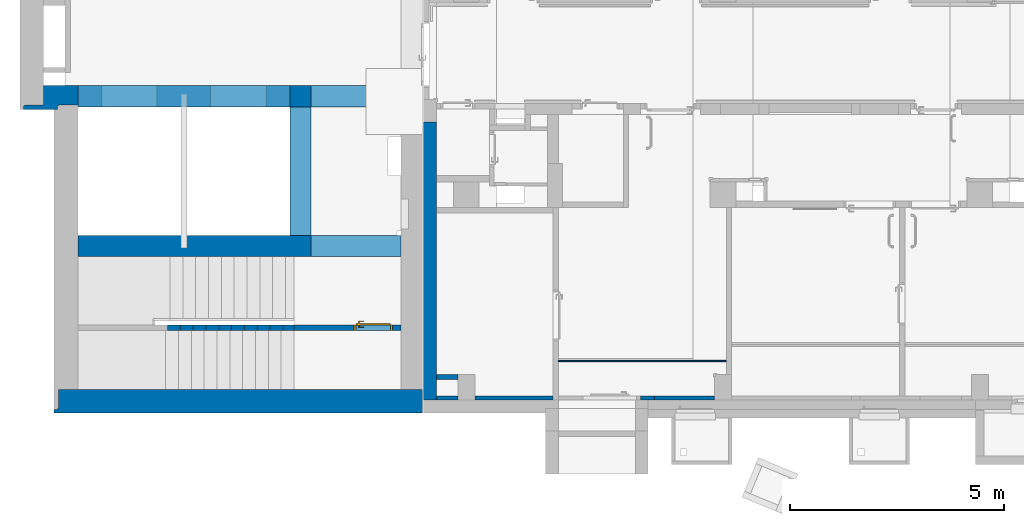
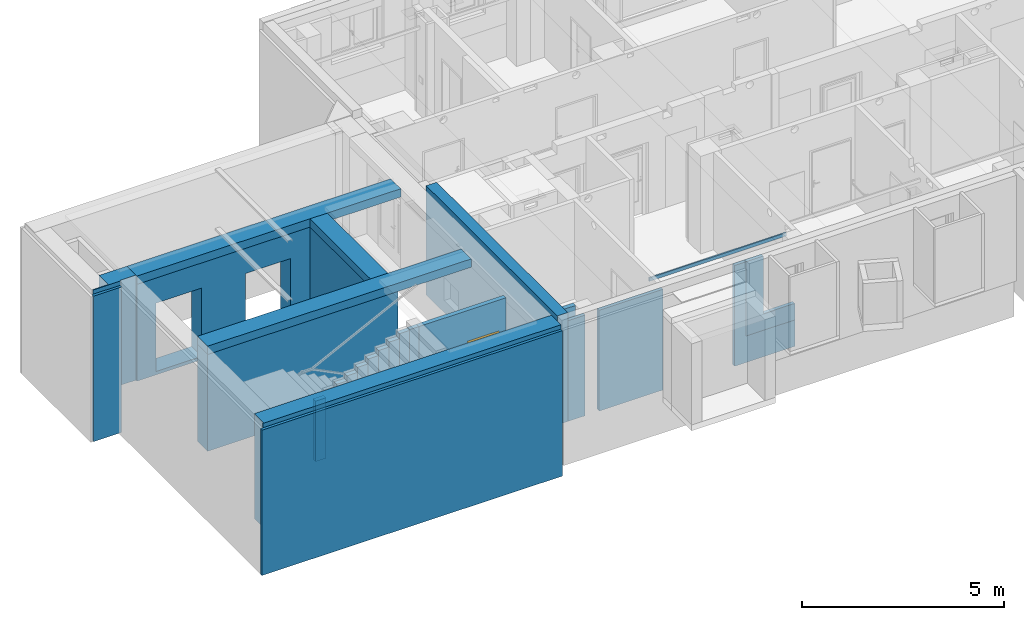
# One storey, part 9 of 84: 26 walls, 1 door, 5 openings.
"""IFC4 building model written with IfcOpenShell, lengths in metres."""

from ifc_helpers import new_model, entity, si_unit, converted_unit, derived_unit, frame, frame_2d, origin, origin_with_axes, place, context, subcontext, project, spatial, polyline, rectangle, outline, extrude, clip, bounded_halfspace, closed_shell, open_shell, surface_model, source, transform, mapped, material, layer, layer_set, layer_usage, type_object, element, fill, save


model = new_model("IFC4")

# Units and contexts
model_context = context("Model", 3, precision=1e-05, world=origin())
body_context = subcontext(model_context, "Body", "Model", "MODEL_VIEW")
ifc_project = project(units=[si_unit("LENGTHUNIT", "METRE"), si_unit("AREAUNIT", "SQUARE_METRE"), si_unit("VOLUMEUNIT", "CUBIC_METRE"), si_unit("MASSUNIT", "GRAM", prefix="KILO"), converted_unit("PLANEANGLEUNIT", "DEGREE", entity("IfcPlaneAngleMeasure", 0.0174532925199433), si_unit("PLANEANGLEUNIT", "RADIAN"), dimensions=[0, 0, 0, 0, 0, 0, 0]), derived_unit("THERMALTRANSMITTANCEUNIT", [(si_unit("POWERUNIT", "WATT"), 1), (si_unit("THERMODYNAMICTEMPERATUREUNIT", "KELVIN"), -1), (si_unit("LENGTHUNIT", "METRE"), -2)]), derived_unit("VOLUMETRICFLOWRATEUNIT", [(si_unit("LENGTHUNIT", "METRE"), 3), (converted_unit("TIMEUNIT", "hour", entity("IfcTimeMeasure", 3600.0), si_unit("TIMEUNIT", "SECOND"), dimensions=[0, 0, 1, 0, 0, 0, 0]), -1), (si_unit("LENGTHUNIT", "METRE"), -1)])], contexts=[model_context])

# Site, building, storey
site_placement = place(None, origin())
site = spatial("IfcSite", under=ifc_project, at=site_placement, Name="3. ASŘ", CompositionType="ELEMENT")
building_placement = place(site_placement, origin())
building = spatial("IfcBuilding", under=site, at=building_placement, Name="Pavilon C", CompositionType="ELEMENT")
storey_placement = place(building_placement, frame((0.0, 0.0, -3.3)))
storey = spatial("IfcBuildingStorey", under=building, at=storey_placement, Name="Půdorys 1.PP", CompositionType="ELEMENT", Elevation=-3.3)

# Walls
ifc_material_1 = material(Name="ZDIVO Z CDm")
ifc_layer_1 = layer(ifc_material_1, 0.5)
ifc_layer_set_1 = layer_set([ifc_layer_1])
ifc_layer_usage_1 = layer_usage(ifc_layer_set_1, "AXIS2", "POSITIVE", 0.0)
wall_1_placement = place(storey_placement, frame((-9.07499999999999, 3.95, -0.1)))
element("IfcWall", 1, at=wall_1_placement, inside=storey, material=ifc_layer_usage_1, Name="ZDIVO Z CDm", context=body_context, shape_type="SweptSolid", body=[
    extrude(rectangle(XDim=5.45, YDim=0.5, at=frame_2d((2.725, 0.25), x_axis=(1.0, 0.0))), origin_with_axes(), (0.0, 0.0, 1.0), 2.93),
])
ifc_material_2 = material(Name="ZDIVO Z CDm")
ifc_layer_2 = layer(ifc_material_2, 0.5)
ifc_layer_set_2 = layer_set([ifc_layer_2])
ifc_layer_usage_2 = layer_usage(ifc_layer_set_2, "AXIS2", "POSITIVE", 0.0)
wall_2_placement = place(storey_placement, frame((-3.62499999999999, 4.45, -0.1), z_axis=(0.0, 0.0, 1.0), x_axis=(0.0, 1.0, 0.0)))
element("IfcWall", 2, at=wall_2_placement, inside=storey, material=ifc_layer_usage_2, Name="ZDIVO Z CDm", context=body_context, shape_type="SweptSolid", body=[
    extrude(rectangle(XDim=3.5, YDim=0.5, at=frame_2d((1.75, 0.25), x_axis=(1.0, 0.0))), origin_with_axes(), (0.0, 0.0, 1.0), 2.93),
])

# Wall, openings
ifc_material_3 = material(Name="ZDIVO Z CDm")
ifc_layer_3 = layer(ifc_material_3, 0.5)
ifc_layer_set_3 = layer_set([ifc_layer_3])
ifc_layer_usage_3 = layer_usage(ifc_layer_set_3, "AXIS2", "POSITIVE", 0.0)
wall_3_placement = place(storey_placement, frame((-4.12499999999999, 7.95, -0.1), z_axis=(0.0, 0.0, 1.0), x_axis=(-1.0, 0.0, 0.0)))
wall_3 = element("IfcWall", 3, at=wall_3_placement, inside=storey, material=ifc_layer_usage_3, Name="ZDIVO Z CDm", context=body_context, shape_type="SweptSolid", body=[
    extrude(rectangle(XDim=4.94999999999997, YDim=0.5, at=frame_2d((2.47499999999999, 0.25), x_axis=(1.0, 0.0))), origin_with_axes(), (0.0, 0.0, 1.0), 2.93),
])
opening_1_placement = place(wall_3_placement, frame((3.1, 0.0, 0.1), z_axis=(0.0, 1.0, 0.0), x_axis=(0.0, 0.0, 1.0)))
element("IfcOpeningElement", 4, at=opening_1_placement, cuts=wall_3, Name="Dveřní otvor", ObjectType="Opening", context=body_context, shape_type="SweptSolid", body=[
    extrude(outline(polyline([(0.0, 1.3), (2.07, 1.3), (2.07, 0.0), (0.0, 0.0), (0.0, 1.3)])), origin_with_axes(), (0.0, 0.0, 1.0), 0.5),
])
opening_2_placement = place(wall_3_placement, frame((0.55, 0.0, 0.1), z_axis=(0.0, 1.0, 0.0), x_axis=(0.0, 0.0, 1.0)))
element("IfcOpeningElement", 5, at=opening_2_placement, cuts=wall_3, Name="Dveřní otvor", ObjectType="Opening", context=body_context, shape_type="SweptSolid", body=[
    extrude(outline(polyline([(0.0, 1.3), (2.07, 1.3), (2.07, 0.0), (0.0, 0.0), (0.0, 1.3)])), origin_with_axes(), (0.0, 0.0, 1.0), 0.5),
])

# Walls
ifc_material_4 = material(Name="ZELEZOBETONOVÁ KCE")
ifc_layer_4 = layer(ifc_material_4, 0.3)
ifc_layer_set_4 = layer_set([ifc_layer_4])
ifc_layer_usage_4 = layer_usage(ifc_layer_set_4, "AXIS2", "POSITIVE", 0.0)
wall_4_placement = place(storey_placement, frame((-0.699999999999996, 0.600000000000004, -0.1), z_axis=(0.0, 0.0, 1.0), x_axis=(0.0, 1.0, 0.0)))
element("IfcWall", 6, at=wall_4_placement, inside=storey, material=ifc_layer_usage_4, Name="ZELEZOBETONOVÁ KCE", context=body_context, shape_type="SweptSolid", body=[
    extrude(rectangle(XDim=6.5, YDim=0.3, at=frame_2d((3.25, 0.15), x_axis=(1.0, 0.0))), origin_with_axes(), (0.0, 0.0, 1.0), 3.3),
])
ifc_material_5 = material(Name="ZELEZOBETONOVÁ KCE")
ifc_layer_5 = layer(ifc_material_5, 0.45)
ifc_material_6 = material(Name="LIGNOPOR")
ifc_layer_6 = layer(ifc_material_6, 0.025)
ifc_material_7 = material(Name="PÓROBETONOVÉ ZDIVO")
ifc_layer_7 = layer(ifc_material_7, 0.08)
ifc_layer_set_5 = layer_set([ifc_layer_5, ifc_layer_6, ifc_layer_7])
ifc_layer_usage_5 = layer_usage(ifc_layer_set_5, "AXIS2", "POSITIVE", 0.0)
wall_5_placement = place(storey_placement, frame((-9.07499999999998, 7.95, -1.45), z_axis=(0.0, 0.0, 1.0), x_axis=(-1.0, 0.0, 0.0)))
element("IfcWall", 7, at=wall_5_placement, inside=storey, material=ifc_layer_usage_5, Name="ZELEZOBETONOVÁ KCE", context=body_context, shape_type="Clipping", body=[
    clip(clip(clip(extrude(outline(polyline([(-1.275, -0.555), (-0.475, -0.555), (-0.475, -0.105), (-0.025, -0.105), (-0.025, -0.08), (0.0, -0.08), (0.0, 0.0), (-0.800000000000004, 0.0), (-0.800000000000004, -0.08), (-0.825000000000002, -0.08), (-0.825000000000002, -0.105), (-1.275, -0.105), (-1.275, -0.555)])), frame((1.275, 0.555, 0.0), z_axis=(0.0, 0.0, 1.0), x_axis=(1.0, 0.0, 0.0)), (0.0, 0.0, 1.0), 4.53), bounded_halfspace(frame((0.4, 0.225, 1.35), z_axis=(0.0, 0.0, 1.0), x_axis=(0.0, -1.0, 0.0)), True, origin_with_axes(), polyline([(0.0, 0.45), (0.0, 0.0), (0.8, 0.0), (0.8, 0.45), (0.0, 0.45)]))), bounded_halfspace(frame((0.779166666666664, 0.4625, 1.45), z_axis=(0.0, 0.0, 1.0), x_axis=(-1.0, 0.0, 0.0)), True, origin_with_axes(), polyline([(0.474999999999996, 0.475), (0.449999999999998, 0.475), (0.449999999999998, 0.45), (0.8, 0.45), (1.25, 0.45), (1.25, 0.475), (0.474999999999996, 0.475)]))), bounded_halfspace(frame((0.949999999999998, 0.507, 4.4), z_axis=(0.0, 0.0, -1.0), x_axis=(1.0, 0.0, 0.0)), True, origin_with_axes(), polyline([(1.25, 0.475), (1.275, 0.475), (1.275, 0.555), (0.474999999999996, 0.555), (0.474999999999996, 0.475), (1.25, 0.475)]))),
])
ifc_material_8 = material(Name="ZELEZOBETONOVÁ KCE")
ifc_layer_8 = layer(ifc_material_8, 0.45)
ifc_material_9 = material(Name="LIGNOPOR")
ifc_layer_9 = layer(ifc_material_9, 0.025)
ifc_material_10 = material(Name="PÓROBETONOVÉ ZDIVO")
ifc_layer_10 = layer(ifc_material_10, 0.08)
ifc_layer_set_6 = layer_set([ifc_layer_8, ifc_layer_9, ifc_layer_10])
ifc_layer_usage_6 = layer_usage(ifc_layer_set_6, "AXIS2", "POSITIVE", 0.0)
wall_6_placement = place(storey_placement, frame((-1.025, 0.850000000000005, -1.45), z_axis=(0.0, 0.0, 1.0), x_axis=(-1.0, 0.0, 0.0)))
element("IfcWall", 8, at=wall_6_placement, inside=storey, material=ifc_layer_usage_6, Name="ZELEZOBETONOVÁ KCE", context=body_context, shape_type="Clipping", body=[
    clip(clip(clip(extrude(outline(polyline([(-8.60499999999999, -0.555), (-0.105, -0.555), (-0.105, -0.105), (-0.0800000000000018, -0.105), (-0.0800000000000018, -0.08), (0.0, -0.08), (0.0, 0.0), (-8.60499999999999, 0.0), (-8.60499999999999, -0.555)])), frame((8.60499999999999, 0.555, 0.0), z_axis=(0.0, 0.0, 1.0), x_axis=(1.0, 0.0, 0.0)), (0.0, 0.0, 1.0), 4.53), bounded_halfspace(frame((4.25, 0.225, 1.35), z_axis=(0.0, 0.0, 1.0), x_axis=(-2.02109933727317e-15, -1.0, 0.0)), True, origin_with_axes(), polyline([(9.09494701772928e-16, 0.45), (0.0, 0.0), (8.49999999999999, 0.0), (8.49999999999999, 0.45), (9.09494701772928e-16, 0.45)]))), bounded_halfspace(frame((5.11, 0.46, 1.45), z_axis=(0.0, 0.0, 1.0), x_axis=(0.0, -1.0, 0.0)), True, origin_with_axes(), polyline([(9.09494701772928e-16, 0.475), (9.09494701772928e-16, 0.45), (8.49999999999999, 0.45), (8.52499999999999, 0.45), (8.52499999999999, 0.475), (9.09494701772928e-16, 0.475)]))), bounded_halfspace(frame((5.14699999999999, 0.507, 4.4), z_axis=(0.0, 0.0, -1.0), x_axis=(1.0, 0.0, 0.0)), True, origin_with_axes(), polyline([(8.52499999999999, 0.475), (8.60499999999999, 0.475), (8.60499999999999, 0.555), (9.09494701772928e-16, 0.555), (9.09494701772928e-16, 0.475), (8.52499999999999, 0.475)]))),
])
ifc_material_11 = material(Name="ZDIVO Z CDm")
ifc_layer_11 = layer(ifc_material_11, 0.125)
ifc_layer_set_7 = layer_set([ifc_layer_11])
ifc_layer_usage_7 = layer_usage(ifc_layer_set_7, "AXIS2", "POSITIVE", 0.0)
wall_7_placement = place(storey_placement, frame((-0.199999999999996, 1.2, -0.1), z_axis=(0.0, 0.0, 1.0), x_axis=(-1.0, 0.0, 0.0)))
element("IfcWall", 9, at=wall_7_placement, inside=storey, material=ifc_layer_usage_7, Name="ZDIVO Z CDm", context=body_context, shape_type="SweptSolid", body=[
    extrude(rectangle(XDim=0.500000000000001, YDim=0.125, at=frame_2d((0.25, 0.0625), x_axis=(1.0, 0.0))), origin_with_axes(), (0.0, 0.0, 1.0), 3.05),
])
ifc_material_12 = material(Name="PÓROBETONOVÉ ZDIVO")
ifc_layer_12 = layer(ifc_material_12, 0.1)
ifc_layer_set_8 = layer_set([ifc_layer_12])
ifc_layer_usage_8 = layer_usage(ifc_layer_set_8, "AXIS2", "POSITIVE", 0.0)
wall_8_placement = place(storey_placement, frame((-0.699999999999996, 0.600000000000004, -0.1)))
element("IfcWall", 10, at=wall_8_placement, inside=storey, material=ifc_layer_usage_8, Name="PÓROBETONOVÉ ZDIVO", context=body_context, shape_type="SweptSolid", body=[
    extrude(rectangle(XDim=0.500000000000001, YDim=0.1, at=frame_2d((0.25, 0.05), x_axis=(1.0, 0.0))), origin_with_axes(), (0.0, 0.0, 1.0), 3.05),
])
ifc_material_13 = material(Name="PÓROBETONOVÉ ZDIVO")
ifc_layer_13 = layer(ifc_material_13, 0.1)
ifc_layer_set_9 = layer_set([ifc_layer_13])
ifc_layer_usage_9 = layer_usage(ifc_layer_set_9, "AXIS2", "POSITIVE", 0.0)
wall_9_placement = place(storey_placement, frame((0.200000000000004, 0.600000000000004, -0.1)))
element("IfcWall", 11, at=wall_9_placement, inside=storey, material=ifc_layer_usage_9, Name="PÓROBETONOVÉ ZDIVO", context=body_context, shape_type="SweptSolid", body=[
    extrude(rectangle(XDim=1.825, YDim=0.1, at=frame_2d((0.9125, 0.05), x_axis=(1.0, 0.0))), origin_with_axes(), (0.0, 0.0, 1.0), 3.05),
])

# Wall, opening, door
ifc_material_14 = material(Name="ZDIVO Z CDm")
ifc_layer_14 = layer(ifc_material_14, 0.125)
ifc_layer_set_10 = layer_set([ifc_layer_14])
ifc_layer_usage_10 = layer_usage(ifc_layer_set_10, "AXIS2", "POSITIVE", 0.0)
wall_10_placement = place(storey_placement, frame((-4.02489999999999, 2.225, -0.1)))
wall_10 = element("IfcWall", 12, at=wall_10_placement, inside=storey, material=ifc_layer_usage_10, Name="ZDIVO Z CDm", context=body_context, shape_type="SweptSolid", body=[
    extrude(rectangle(XDim=2.4999, YDim=0.125, at=frame_2d((1.24995, 0.0625), x_axis=(1.0, 0.0))), origin_with_axes(), (0.0, 0.0, 1.0), 3.05),
])
opening_3_placement = place(wall_10_placement, frame((1.3999, 0.0, 0.1), z_axis=(0.0, 1.0, 0.0), x_axis=(0.0, 0.0, 1.0)))
opening_3 = element("IfcOpeningElement", 13, at=opening_3_placement, cuts=wall_10, Name="Dveřní otvor", ObjectType="Opening", context=body_context, shape_type="SweptSolid", body=[
    extrude(outline(polyline([(0.0, 0.9), (2.02, 0.9), (2.02, 0.0), (0.0, 0.0), (0.0, 0.9)])), origin_with_axes(), (0.0, 0.0, 1.0), 0.125),
])
door_type = type_object("IfcDoorType", Name="D101", OperationType="NOTDEFINED", ParameterTakesPrecedence=False, PredefinedType="DOOR")
shared_shape = source(origin_with_axes(), body_context, "Body", "SurfaceModel", [
    surface_model("IfcShellBasedSurfaceModel", [(0.0, 0.125, 2.02), (0.0, 0.125, -7.65404249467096e-18), (0.05, 0.125, -7.65404249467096e-18), (0.05, 0.125, 2.02), (0.0, 0.0, 7.65404249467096e-18), (0.0, 2.41584530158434e-16, 2.02), (0.05, 2.41584530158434e-16, 2.02), (0.05, 0.0, 7.65404249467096e-18)], [closed_shell([[[0, 1, 2, 3]], [[4, 5, 6, 7]], [[1, 0, 5, 4]], [[2, 1, 4, 7]], [[3, 2, 7, 6]], [[0, 3, 6, 5]]], orient=[[False], [False], [False], [False], [False], [False]])]),
    surface_model("IfcShellBasedSurfaceModel", [(0.85, 0.125, 2.02), (0.85, 0.125, -7.65404249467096e-18), (0.9, 0.125, -7.65404249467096e-18), (0.9, 0.125, 2.02), (0.85, 0.0, 7.65404249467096e-18), (0.85, 2.41584530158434e-16, 2.02), (0.9, 2.41584530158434e-16, 2.02), (0.9, 0.0, 7.65404249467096e-18)], [closed_shell([[[0, 1, 2, 3]], [[4, 5, 6, 7]], [[1, 0, 5, 4]], [[2, 1, 4, 7]], [[3, 2, 7, 6]], [[0, 3, 6, 5]]], orient=[[False], [False], [False], [False], [False], [False]])]),
    surface_model("IfcShellBasedSurfaceModel", [(0.05, 0.125, 2.02), (0.05, 0.125, 1.97), (0.85, 0.125, 1.97), (0.85, 0.125, 2.02), (0.05, 2.41584530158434e-16, 1.97), (0.05, 2.41584530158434e-16, 2.02), (0.85, 2.41584530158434e-16, 2.02), (0.85, 2.41584530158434e-16, 1.97)], [closed_shell([[[0, 1, 2, 3]], [[4, 5, 6, 7]], [[1, 0, 5, 4]], [[2, 1, 4, 7]], [[3, 2, 7, 6]], [[0, 3, 6, 5]]], orient=[[False], [False], [False], [False], [False], [False]])]),
    surface_model("IfcShellBasedSurfaceModel", [(0.05, 0.165, 1.97), (0.05, 0.165, -1.25526296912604e-17), (0.85, 0.165, -1.25526296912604e-17), (0.85, 0.165, 1.97), (0.05, 0.125, -7.65404249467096e-18), (0.05, 0.125, 1.97), (0.85, 0.125, 1.97), (0.85, 0.125, -7.65404249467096e-18)], [closed_shell([[[0, 1, 2, 3]], [[4, 5, 6, 7]], [[1, 0, 5, 4]], [[2, 1, 4, 7]], [[3, 2, 7, 6]], [[0, 3, 6, 5]]], orient=[[False], [False], [False], [False], [False], [False]])]),
    surface_model("IfcShellBasedSurfaceModel", [(0.76, 0.125, 1.125), (0.76, 0.125, 0.91), (0.81, 0.125, 0.91), (0.81, 0.125, 1.125), (0.76, 0.115, 0.91), (0.76, 0.115, 1.125), (0.81, 0.115, 1.125), (0.81, 0.115, 0.91)], [closed_shell([[[0, 1, 2, 3]], [[4, 5, 6, 7]], [[1, 0, 5, 4]], [[2, 1, 4, 7]], [[3, 2, 7, 6]], [[0, 3, 6, 5]]], orient=[[False], [False], [False], [False], [False], [False]])]),
    surface_model("IfcShellBasedSurfaceModel", [(0.785, 0.115, 1.06), (0.78, 0.115, 1.05866025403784), (0.776339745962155, 0.115, 1.055), (0.775, 0.115, 1.05), (0.776339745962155, 0.115, 1.045), (0.78, 0.115, 1.04133974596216), (0.785, 0.115, 1.04), (0.79, 0.115, 1.04133974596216), (0.793660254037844, 0.115, 1.045), (0.795, 0.115, 1.05), (0.793660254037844, 0.115, 1.055), (0.79, 0.115, 1.05866025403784), (0.79, 0.0700000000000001, 1.05866025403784), (0.785, 0.0750000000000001, 1.06), (0.793660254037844, 0.0663397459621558, 1.055), (0.795, 0.0650000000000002, 1.05), (0.793660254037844, 0.0663397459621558, 1.045), (0.79, 0.0700000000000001, 1.04133974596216), (0.785, 0.0750000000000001, 1.04), (0.78, 0.0800000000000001, 1.04133974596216), (0.776339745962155, 0.0836602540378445, 1.045), (0.775, 0.0850000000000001, 1.05), (0.776339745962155, 0.0836602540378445, 1.055), (0.78, 0.0800000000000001, 1.05866025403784), (0.67, 0.0700000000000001, 1.05866025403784), (0.67, 0.0750000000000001, 1.06), (0.67, 0.0663397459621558, 1.055), (0.67, 0.0650000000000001, 1.05), (0.67, 0.0663397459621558, 1.045), (0.67, 0.0700000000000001, 1.04133974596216), (0.67, 0.0750000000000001, 1.04), (0.67, 0.0800000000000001, 1.04133974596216), (0.67, 0.0836602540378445, 1.045), (0.67, 0.0850000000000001, 1.05), (0.67, 0.0836602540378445, 1.055), (0.67, 0.0800000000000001, 1.05866025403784)], [open_shell([[[0, 1, 2, 3, 4, 5, 6, 7, 8, 9, 10, 11]], [[0, 11, 12, 13]], [[11, 10, 14, 12]], [[10, 9, 15, 14]], [[9, 8, 16, 15]], [[8, 7, 17, 16]], [[7, 6, 18, 17]], [[6, 5, 19, 18]], [[5, 4, 20, 19]], [[4, 3, 21, 20]], [[3, 2, 22, 21]], [[2, 1, 23, 22]], [[1, 0, 13, 23]], [[13, 12, 24, 25]], [[12, 14, 26, 24]], [[14, 15, 27, 26]], [[15, 16, 28, 27]], [[16, 17, 29, 28]], [[17, 18, 30, 29]], [[18, 19, 31, 30]], [[19, 20, 32, 31]], [[20, 21, 33, 32]], [[21, 22, 34, 33]], [[22, 23, 35, 34]], [[23, 13, 25, 35]]], orient=[[False], [False], [False], [False], [False], [False], [False], [False], [False], [False], [False], [False], [False], [False], [False], [False], [False], [False], [False], [False], [False], [False], [False], [False], [False]])]),
    surface_model("IfcShellBasedSurfaceModel", [(0.76, 0.165, 1.125), (0.81, 0.165, 1.125), (0.81, 0.165, 0.91), (0.76, 0.165, 0.91), (0.76, 0.175, 0.91), (0.81, 0.175, 0.91), (0.81, 0.175, 1.125), (0.76, 0.175, 1.125)], [closed_shell([[[0, 1, 2, 3]], [[4, 5, 6, 7]], [[3, 4, 7, 0]], [[2, 5, 4, 3]], [[1, 6, 5, 2]], [[0, 7, 6, 1]]], orient=[[False], [False], [False], [False], [False], [False]])]),
    surface_model("IfcShellBasedSurfaceModel", [(0.785, 0.175, 1.06), (0.79, 0.175, 1.05866025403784), (0.793660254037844, 0.175, 1.055), (0.795, 0.175, 1.05), (0.793660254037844, 0.175, 1.045), (0.79, 0.175, 1.04133974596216), (0.785, 0.175, 1.04), (0.78, 0.175, 1.04133974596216), (0.776339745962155, 0.175, 1.045), (0.775, 0.175, 1.05), (0.776339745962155, 0.175, 1.055), (0.78, 0.175, 1.05866025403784), (0.785, 0.215, 1.06), (0.79, 0.22, 1.05866025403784), (0.793660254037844, 0.223660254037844, 1.055), (0.795, 0.225, 1.05), (0.793660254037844, 0.223660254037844, 1.045), (0.79, 0.22, 1.04133974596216), (0.785, 0.215, 1.04), (0.78, 0.21, 1.04133974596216), (0.776339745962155, 0.206339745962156, 1.045), (0.775, 0.205, 1.05), (0.776339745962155, 0.206339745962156, 1.055), (0.78, 0.21, 1.05866025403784), (0.67, 0.215, 1.06), (0.67, 0.22, 1.05866025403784), (0.67, 0.223660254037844, 1.055), (0.67, 0.225, 1.05), (0.67, 0.223660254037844, 1.045), (0.67, 0.22, 1.04133974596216), (0.67, 0.215, 1.04), (0.67, 0.21, 1.04133974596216), (0.67, 0.206339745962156, 1.045), (0.67, 0.205, 1.05), (0.67, 0.206339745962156, 1.055), (0.67, 0.21, 1.05866025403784)], [open_shell([[[0, 1, 2, 3, 4, 5, 6, 7, 8, 9, 10, 11]], [[0, 12, 13, 1]], [[1, 13, 14, 2]], [[2, 14, 15, 3]], [[3, 15, 16, 4]], [[4, 16, 17, 5]], [[5, 17, 18, 6]], [[6, 18, 19, 7]], [[7, 19, 20, 8]], [[8, 20, 21, 9]], [[9, 21, 22, 10]], [[10, 22, 23, 11]], [[11, 23, 12, 0]], [[12, 24, 25, 13]], [[13, 25, 26, 14]], [[14, 26, 27, 15]], [[15, 27, 28, 16]], [[16, 28, 29, 17]], [[17, 29, 30, 18]], [[18, 30, 31, 19]], [[19, 31, 32, 20]], [[20, 32, 33, 21]], [[21, 33, 34, 22]], [[22, 34, 35, 23]], [[23, 35, 24, 12]]], orient=[[False], [False], [False], [False], [False], [False], [False], [False], [False], [False], [False], [False], [False], [False], [False], [False], [False], [False], [False], [False], [False], [False], [False], [False], [False]])]),
])
door_placement = place(opening_3_placement, frame((0.0, 0.9, 0.0), z_axis=(1.0, 0.0, 0.0), x_axis=(0.0, -1.0, 0.0)))
door = element("IfcDoor", 14, at=door_placement, inside=storey, type_object=door_type, Name="D101", OverallHeight=2.02, OverallWidth=0.9, context=body_context, shape_type="MappedRepresentation", body=[
    mapped(shared_shape, transform((0.0, 0.0, 0.0), x_axis=(1.0, 0.0, 0.0), y_axis=(0.0, -1.0, 0.0), z_axis=(0.0, 0.0, 1.0), scale=1.0)),
])
fill(opening_3, door)

# Walls
ifc_material_15 = material(Name="ZDIVO Z CDm")
ifc_layer_15 = layer(ifc_material_15, 0.125)
ifc_layer_set_11 = layer_set([ifc_layer_15])
ifc_layer_usage_11 = layer_usage(ifc_layer_set_11, "AXIS2", "POSITIVE", 0.0)
wall_11_placement = place(storey_placement, frame((-4.28489999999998, 2.225, -0.1)))
element("IfcWall", 15, at=wall_11_placement, inside=storey, material=ifc_layer_usage_11, Name="ZDIVO Z CDm", context=body_context, shape_type="SweptSolid", body=[
    extrude(rectangle(XDim=0.259999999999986, YDim=0.125, at=frame_2d((0.129999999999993, 0.0625), x_axis=(1.0, 0.0))), origin_with_axes(), (0.0, 0.0, 1.0), 3.05),
])
ifc_material_16 = material(Name="ZDIVO Z CDm")
ifc_layer_16 = layer(ifc_material_16, 0.125)
ifc_layer_set_12 = layer_set([ifc_layer_16])
ifc_layer_usage_12 = layer_usage(ifc_layer_set_12, "AXIS2", "POSITIVE", 0.0)
wall_12_placement = place(storey_placement, frame((-4.58489999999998, 2.225, -0.1)))
element("IfcWall", 16, at=wall_12_placement, inside=storey, material=ifc_layer_usage_12, Name="ZDIVO Z CDm", context=body_context, shape_type="SweptSolid", body=[
    extrude(rectangle(XDim=0.3, YDim=0.125, at=frame_2d((0.15, 0.0625), x_axis=(1.0, 0.0))), origin_with_axes(), (0.0, 0.0, 1.0), 3.03),
])
ifc_material_17 = material(Name="ZDIVO Z CDm")
ifc_layer_17 = layer(ifc_material_17, 0.125)
ifc_layer_set_13 = layer_set([ifc_layer_17])
ifc_layer_usage_13 = layer_usage(ifc_layer_set_13, "AXIS2", "POSITIVE", 0.0)
wall_13_placement = place(storey_placement, frame((-4.88489999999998, 2.225, -0.1)))
element("IfcWall", 17, at=wall_13_placement, inside=storey, material=ifc_layer_usage_13, Name="ZDIVO Z CDm", context=body_context, shape_type="SweptSolid", body=[
    extrude(rectangle(XDim=0.3, YDim=0.125, at=frame_2d((0.15, 0.0625), x_axis=(1.0, 0.0))), origin_with_axes(), (0.0, 0.0, 1.0), 2.88),
])
ifc_material_18 = material(Name="ZDIVO Z CDm")
ifc_layer_18 = layer(ifc_material_18, 0.125)
ifc_layer_set_14 = layer_set([ifc_layer_18])
ifc_layer_usage_14 = layer_usage(ifc_layer_set_14, "AXIS2", "POSITIVE", 0.0)
wall_14_placement = place(storey_placement, frame((-5.18489999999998, 2.225, -0.1)))
element("IfcWall", 18, at=wall_14_placement, inside=storey, material=ifc_layer_usage_14, Name="ZDIVO Z CDm", context=body_context, shape_type="SweptSolid", body=[
    extrude(rectangle(XDim=0.300000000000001, YDim=0.125, at=frame_2d((0.15, 0.0625), x_axis=(1.0, 0.0))), origin_with_axes(), (0.0, 0.0, 1.0), 2.73),
])
ifc_material_19 = material(Name="ZDIVO Z CDm")
ifc_layer_19 = layer(ifc_material_19, 0.125)
ifc_layer_set_15 = layer_set([ifc_layer_19])
ifc_layer_usage_15 = layer_usage(ifc_layer_set_15, "AXIS2", "POSITIVE", 0.0)
wall_15_placement = place(storey_placement, frame((-5.48489999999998, 2.225, -0.1)))
element("IfcWall", 19, at=wall_15_placement, inside=storey, material=ifc_layer_usage_15, Name="ZDIVO Z CDm", context=body_context, shape_type="SweptSolid", body=[
    extrude(rectangle(XDim=0.299999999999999, YDim=0.125, at=frame_2d((0.15, 0.0625), x_axis=(1.0, 0.0))), origin_with_axes(), (0.0, 0.0, 1.0), 2.58),
])
ifc_material_20 = material(Name="ZDIVO Z CDm")
ifc_layer_20 = layer(ifc_material_20, 0.125)
ifc_layer_set_16 = layer_set([ifc_layer_20])
ifc_layer_usage_16 = layer_usage(ifc_layer_set_16, "AXIS2", "POSITIVE", 0.0)
wall_16_placement = place(storey_placement, frame((-5.78489999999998, 2.225, -0.1)))
element("IfcWall", 20, at=wall_16_placement, inside=storey, material=ifc_layer_usage_16, Name="ZDIVO Z CDm", context=body_context, shape_type="SweptSolid", body=[
    extrude(rectangle(XDim=0.3, YDim=0.125, at=frame_2d((0.15, 0.0625), x_axis=(1.0, 0.0))), origin_with_axes(), (0.0, 0.0, 1.0), 2.43),
])
ifc_material_21 = material(Name="ZDIVO Z CDm")
ifc_layer_21 = layer(ifc_material_21, 0.125)
ifc_layer_set_17 = layer_set([ifc_layer_21])
ifc_layer_usage_17 = layer_usage(ifc_layer_set_17, "AXIS2", "POSITIVE", 0.0)
wall_17_placement = place(storey_placement, frame((-6.08489999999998, 2.225, -0.1)))
element("IfcWall", 21, at=wall_17_placement, inside=storey, material=ifc_layer_usage_17, Name="ZDIVO Z CDm", context=body_context, shape_type="SweptSolid", body=[
    extrude(rectangle(XDim=0.3, YDim=0.125, at=frame_2d((0.15, 0.0625), x_axis=(1.0, 0.0))), origin_with_axes(), (0.0, 0.0, 1.0), 2.28),
])
ifc_material_22 = material(Name="ZDIVO Z CDm")
ifc_layer_22 = layer(ifc_material_22, 0.125)
ifc_layer_set_18 = layer_set([ifc_layer_22])
ifc_layer_usage_18 = layer_usage(ifc_layer_set_18, "AXIS2", "POSITIVE", 0.0)
wall_18_placement = place(storey_placement, frame((-6.38489999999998, 2.225, -0.1)))
element("IfcWall", 22, at=wall_18_placement, inside=storey, material=ifc_layer_usage_18, Name="ZDIVO Z CDm", context=body_context, shape_type="SweptSolid", body=[
    extrude(rectangle(XDim=0.3, YDim=0.125, at=frame_2d((0.15, 0.0625), x_axis=(1.0, 0.0))), origin_with_axes(), (0.0, 0.0, 1.0), 2.13),
])
ifc_material_23 = material(Name="ZDIVO Z CDm")
ifc_layer_23 = layer(ifc_material_23, 0.125)
ifc_layer_set_19 = layer_set([ifc_layer_23])
ifc_layer_usage_19 = layer_usage(ifc_layer_set_19, "AXIS2", "POSITIVE", 0.0)
wall_19_placement = place(storey_placement, frame((-6.68489999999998, 2.225, -0.1)))
element("IfcWall", 23, at=wall_19_placement, inside=storey, material=ifc_layer_usage_19, Name="ZDIVO Z CDm", context=body_context, shape_type="SweptSolid", body=[
    extrude(rectangle(XDim=0.3, YDim=0.125, at=frame_2d((0.15, 0.0625), x_axis=(1.0, 0.0))), origin_with_axes(), (0.0, 0.0, 1.0), 1.98),
])
ifc_material_24 = material(Name="ZDIVO Z CDm")
ifc_layer_24 = layer(ifc_material_24, 0.125)
ifc_layer_set_20 = layer_set([ifc_layer_24])
ifc_layer_usage_20 = layer_usage(ifc_layer_set_20, "AXIS2", "POSITIVE", 0.0)
wall_20_placement = place(storey_placement, frame((-6.98489999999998, 2.225, -0.1)))
element("IfcWall", 24, at=wall_20_placement, inside=storey, material=ifc_layer_usage_20, Name="ZDIVO Z CDm", context=body_context, shape_type="SweptSolid", body=[
    extrude(rectangle(XDim=0.3, YDim=0.125, at=frame_2d((0.15, 0.0625), x_axis=(1.0, 0.0))), origin_with_axes(), (0.0, 0.0, 1.0), 1.83),
])

# Wall, opening
ifc_material_25 = material(Name="PÓROBETONOVÉ ZDIVO")
ifc_layer_25 = layer(ifc_material_25, 0.1)
ifc_layer_set_21 = layer_set([ifc_layer_25])
ifc_layer_usage_21 = layer_usage(ifc_layer_set_21, "AXIS2", "POSITIVE", 0.0)
wall_21_placement = place(storey_placement, frame((4.075, 0.600000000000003, -0.1)))
wall_21 = element("IfcWall", 25, at=wall_21_placement, inside=storey, material=ifc_layer_usage_21, Name="PÓROBETONOVÉ ZDIVO", context=body_context, shape_type="SweptSolid", body=[
    extrude(rectangle(XDim=1.725, YDim=0.1, at=frame_2d((0.8625, 0.05), x_axis=(1.0, 0.0))), origin_with_axes(), (0.0, 0.0, 1.0), 3.05),
])
opening_4_placement = place(wall_21_placement, frame((1.725, 0.1, 0.8), z_axis=(0.0, -1.0, 0.0), x_axis=(0.0, 0.0, 1.0)))
element("IfcOpeningElement", 26, at=opening_4_placement, cuts=wall_21, Name="Okenní otvor", ObjectType="Opening", context=body_context, shape_type="SweptSolid", body=[
    extrude(outline(polyline([(0.0, 1.4), (2.25, 1.4), (2.25, 0.0), (0.0, 0.0), (0.0, 1.4)])), origin_with_axes(), (0.0, 0.0, 1.0), 0.1),
])

# Walls
ifc_material_26 = material(Name="ZELEZOBETONOVÁ KCE")
ifc_layer_26 = layer(ifc_material_26, 0.5)
ifc_layer_set_22 = layer_set([ifc_layer_26])
ifc_layer_usage_22 = layer_usage(ifc_layer_set_22, "AXIS2", "POSITIVE", 0.0)
wall_22_placement = place(storey_placement, frame((-9.07499999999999, 7.45, 2.83)))
element("IfcWall", 27, at=wall_22_placement, inside=storey, material=ifc_layer_usage_22, context=body_context, shape_type="SweptSolid", body=[
    extrude(rectangle(XDim=7.55, YDim=0.5, at=frame_2d((3.775, 0.25), x_axis=(1.0, 0.0))), origin_with_axes(), (0.0, 0.0, 1.0), 0.25),
])
ifc_material_27 = material(Name="ZELEZOBETONOVÁ KCE")
ifc_layer_27 = layer(ifc_material_27, 0.5)
ifc_layer_set_23 = layer_set([ifc_layer_27])
ifc_layer_usage_23 = layer_usage(ifc_layer_set_23, "AXIS2", "POSITIVE", 0.0)
wall_23_placement = place(storey_placement, frame((-1.52499999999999, 4.45, 2.83), z_axis=(0.0, 0.0, 1.0), x_axis=(-1.0, 0.0, 0.0)))
element("IfcWall", 28, at=wall_23_placement, inside=storey, material=ifc_layer_usage_23, context=body_context, shape_type="SweptSolid", body=[
    extrude(rectangle(XDim=7.55, YDim=0.5, at=frame_2d((3.775, 0.25), x_axis=(1.0, 0.0))), origin_with_axes(), (0.0, 0.0, 1.0), 0.25),
])
ifc_material_28 = material(Name="ZELEZOBETONOVÁ KCE")
ifc_layer_28 = layer(ifc_material_28, 0.5)
ifc_layer_set_24 = layer_set([ifc_layer_28])
ifc_layer_usage_24 = layer_usage(ifc_layer_set_24, "AXIS2", "POSITIVE", 0.0)
wall_24_placement = place(storey_placement, frame((-4.12499999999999, 7.45, 2.83), z_axis=(0.0, 0.0, 1.0), x_axis=(0.0, -1.0, 0.0)))
element("IfcWall", 29, at=wall_24_placement, inside=storey, material=ifc_layer_usage_24, context=body_context, shape_type="SweptSolid", body=[
    extrude(rectangle(XDim=3.0, YDim=0.5, at=frame_2d((1.5, 0.25), x_axis=(1.0, 0.0))), origin_with_axes(), (0.0, 0.0, 1.0), 0.25),
])

# Wall, opening
ifc_material_29 = material(Name="YTONG 100")
ifc_layer_29 = layer(ifc_material_29, 0.1)
ifc_layer_set_25 = layer_set([ifc_layer_29])
ifc_layer_usage_25 = layer_usage(ifc_layer_set_25, "AXIS2", "POSITIVE", 0.0)
wall_25_placement = place(storey_placement, frame((4.4, 0.600000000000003, 0.7)))
wall_25 = element("IfcWall", 30, at=wall_25_placement, inside=storey, material=ifc_layer_usage_25, Name="YTONG 100", context=body_context, shape_type="SweptSolid", body=[
    extrude(rectangle(XDim=1.4, YDim=0.1, at=frame_2d((0.7, 0.05), x_axis=(1.0, 0.0))), origin_with_axes(), (0.0, 0.0, 1.0), 2.25),
])
opening_5_placement = place(wall_25_placement, frame((1.4, 0.1, 0.5), z_axis=(0.0, -1.0, 0.0), x_axis=(0.0, 0.0, 1.0)))
element("IfcOpeningElement", 31, at=opening_5_placement, cuts=wall_25, Name="Okenní otvor", ObjectType="Opening", context=body_context, shape_type="SweptSolid", body=[
    extrude(outline(polyline([(0.0, 0.9), (1.75, 0.9), (1.75, 0.0), (0.0, 0.0), (0.0, 0.9)])), origin_with_axes(), (0.0, 0.0, 1.0), 0.1),
])

# Wall
ifc_material_30 = material(Name="SDK SVISLA CAST PODHLEDU")
ifc_layer_30 = layer(ifc_material_30, 0.0400000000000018)
ifc_layer_set_26 = layer_set([ifc_layer_30])
ifc_layer_usage_26 = layer_usage(ifc_layer_set_26, "AXIS2", "POSITIVE", 0.0)
wall_26_placement = place(storey_placement, frame((6.075, 1.535, 2.6), z_axis=(0.0, 0.0, 1.0), x_axis=(-1.0, 0.0, 0.0)))
element("IfcWall", 32, at=wall_26_placement, inside=storey, material=ifc_layer_usage_26, Name="SDK SVISLA CAST PODHLEDU", context=body_context, shape_type="SweptSolid", body=[
    extrude(rectangle(XDim=3.925, YDim=0.0400000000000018, at=frame_2d((1.9625, 0.0200000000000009), x_axis=(1.0, 0.0))), origin_with_axes(), (0.0, 0.0, 1.0), 0.1),
])

save(model, "model.ifc")
